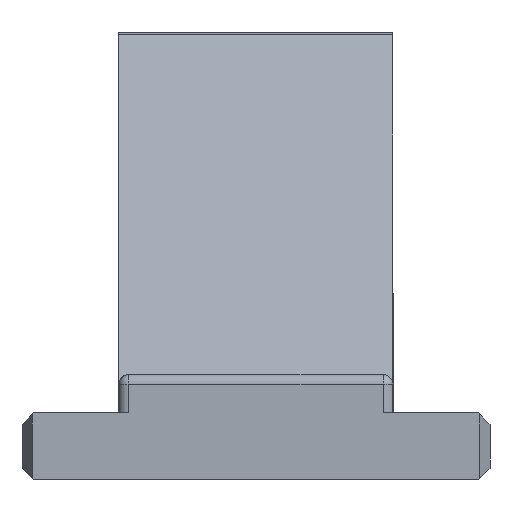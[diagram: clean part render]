
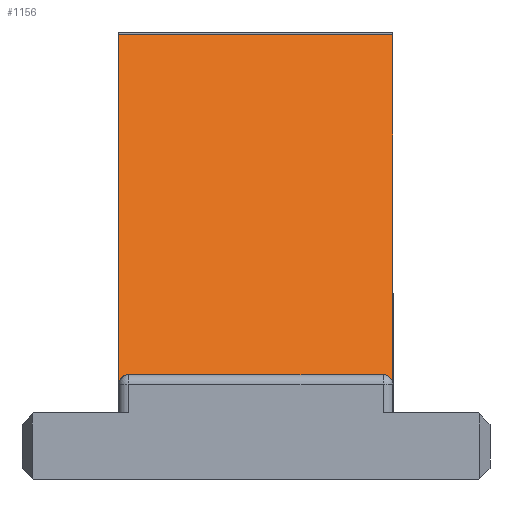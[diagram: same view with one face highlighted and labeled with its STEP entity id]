
A CAD part, front view. The second image highlights one B-rep face of the part: STEP entity #1156.
In plain terms, the highlighted planar face has unit normal (0, -0.643, 0.766).
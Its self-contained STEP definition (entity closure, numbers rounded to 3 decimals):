
#64=DIRECTION('',(0.,-0.766,-0.643));
#65=VECTOR('',#64,27.786);
#66=CARTESIAN_POINT('',(-7.005,19.179,26.861));
#67=LINE('',#66,#65);
#265=DIRECTION('',(0.,-0.766,-0.643));
#266=VECTOR('',#265,27.786);
#267=CARTESIAN_POINT('',(6.995,19.179,26.861));
#268=LINE('',#267,#266);
#310=CARTESIAN_POINT('',(6.995,-2.107,9.));
#311=CARTESIAN_POINT('',(6.995,-1.944,9.137));
#312=CARTESIAN_POINT('',(6.924,-1.753,9.297));
#313=CARTESIAN_POINT('',(6.762,-1.592,9.432));
#314=CARTESIAN_POINT('',(6.632,-1.529,9.485));
#315=CARTESIAN_POINT('',(6.548,-1.511,9.5));
#316=CARTESIAN_POINT('',(6.495,-1.511,9.5));
#326=DIRECTION('',(1.,0.,0.));
#327=VECTOR('',#326,13.);
#328=CARTESIAN_POINT('',(-6.505,-1.511,9.5));
#329=LINE('',#328,#327);
#359=CARTESIAN_POINT('',(-6.505,-1.511,9.5));
#360=CARTESIAN_POINT('',(-6.558,-1.511,9.5));
#361=CARTESIAN_POINT('',(-6.642,-1.529,9.485));
#362=CARTESIAN_POINT('',(-6.772,-1.592,9.432));
#363=CARTESIAN_POINT('',(-6.934,-1.753,9.297));
#364=CARTESIAN_POINT('',(-7.005,-1.944,9.137));
#365=CARTESIAN_POINT('',(-7.005,-2.107,9.));
#371=DIRECTION('',(-1.,0.,0.));
#372=VECTOR('',#371,14.);
#373=CARTESIAN_POINT('',(6.995,19.179,26.861));
#374=LINE('',#373,#372);
#549=VERTEX_POINT('',#359);
#550=VERTEX_POINT('',#365);
#551=VERTEX_POINT('',#310);
#552=VERTEX_POINT('',#316);
#561=CARTESIAN_POINT('',(-7.005,19.179,26.861));
#563=VERTEX_POINT('',#561);
#567=CARTESIAN_POINT('',(6.995,19.179,26.861));
#568=VERTEX_POINT('',#567);
#1143=CARTESIAN_POINT('',(6.995,20.,27.55));
#1144=DIRECTION('',(0.,-0.643,0.766));
#1145=DIRECTION('',(0.,-0.766,-0.643));
#1146=AXIS2_PLACEMENT_3D('',#1143,#1144,#1145);
#1147=PLANE('',#1146);
#1148=ORIENTED_EDGE('',*,*,#737,.F.);
#1149=ORIENTED_EDGE('',*,*,#1010,.T.);
#1150=ORIENTED_EDGE('',*,*,#1078,.T.);
#1151=ORIENTED_EDGE('',*,*,#1093,.F.);
#1152=ORIENTED_EDGE('',*,*,#1137,.T.);
#1153=ORIENTED_EDGE('',*,*,#712,.F.);
#1154=EDGE_LOOP('',(#1148,#1149,#1150,#1151,#1152,#1153));
#1155=FACE_OUTER_BOUND('',#1154,.F.);
#1156=ADVANCED_FACE('',(#1155),#1147,.T.);
#317=B_SPLINE_CURVE_WITH_KNOTS('',3,(#310,#311,#312,#313,#314,#315,#316),
.UNSPECIFIED.,.F.,.F.,(4,1,1,1,4),(0.,0.5,0.75,0.875,1.),
.UNSPECIFIED.);
#366=B_SPLINE_CURVE_WITH_KNOTS('',3,(#359,#360,#361,#362,#363,#364,#365),
.UNSPECIFIED.,.F.,.F.,(4,1,1,1,4),(0.,0.125,0.25,0.5,1.),
.UNSPECIFIED.);
#712=EDGE_CURVE('',#563,#550,#67,.T.);
#737=EDGE_CURVE('',#568,#563,#374,.T.);
#1010=EDGE_CURVE('',#568,#551,#268,.T.);
#1078=EDGE_CURVE('',#551,#552,#317,.T.);
#1093=EDGE_CURVE('',#549,#552,#329,.T.);
#1137=EDGE_CURVE('',#549,#550,#366,.T.);
